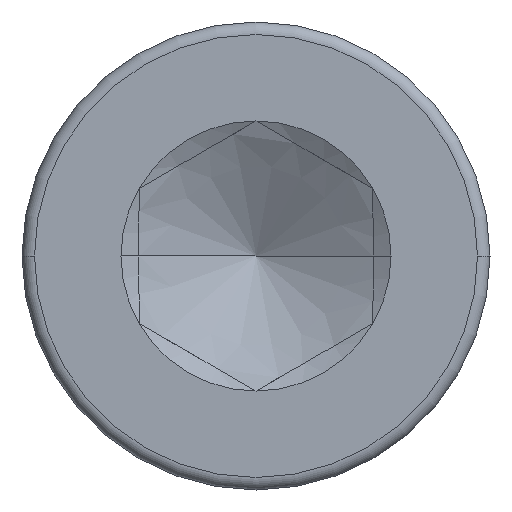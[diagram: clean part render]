
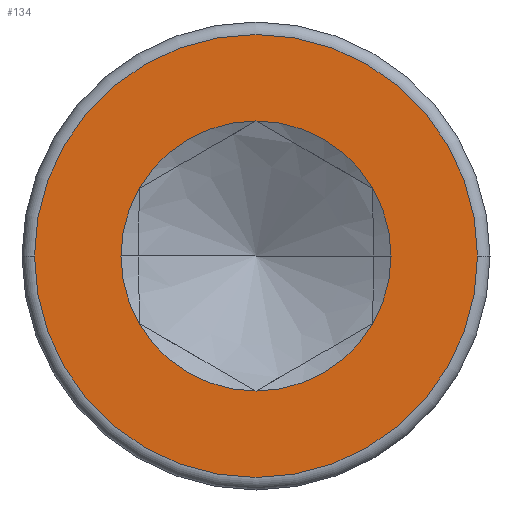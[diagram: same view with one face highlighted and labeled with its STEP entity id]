
A CAD part, left-side view. The second image highlights one B-rep face of the part: STEP entity #134.
In plain terms, the highlighted planar face has unit normal (-1, 0, 0).
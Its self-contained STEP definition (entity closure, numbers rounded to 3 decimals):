
#90=FACE_BOUND('',#206,.F.);
#101=PLANE('',#615);
#134=ADVANCED_FACE('',(#90,#169),#101,.T.);
#169=FACE_OUTER_BOUND('',#207,.F.);
#206=EDGE_LOOP('',(#330,#331,#332,#333,#334,#335,#336,#337));
#207=EDGE_LOOP('',(#338,#339));
#330=ORIENTED_EDGE('',*,*,#460,.T.);
#331=ORIENTED_EDGE('',*,*,#459,.T.);
#332=ORIENTED_EDGE('',*,*,#458,.T.);
#333=ORIENTED_EDGE('',*,*,#465,.T.);
#334=ORIENTED_EDGE('',*,*,#464,.T.);
#335=ORIENTED_EDGE('',*,*,#463,.T.);
#336=ORIENTED_EDGE('',*,*,#462,.T.);
#337=ORIENTED_EDGE('',*,*,#461,.T.);
#338=ORIENTED_EDGE('',*,*,#473,.F.);
#339=ORIENTED_EDGE('',*,*,#466,.F.);
#458=EDGE_CURVE('',#544,#531,#492,.T.);
#459=EDGE_CURVE('',#545,#544,#493,.T.);
#460=EDGE_CURVE('',#546,#545,#494,.T.);
#461=EDGE_CURVE('',#532,#546,#495,.T.);
#462=EDGE_CURVE('',#547,#532,#496,.T.);
#463=EDGE_CURVE('',#541,#547,#497,.T.);
#464=EDGE_CURVE('',#542,#541,#498,.T.);
#465=EDGE_CURVE('',#531,#542,#499,.T.);
#466=EDGE_CURVE('',#521,#520,#500,.T.);
#473=EDGE_CURVE('',#520,#521,#505,.T.);
#492=CIRCLE('',#575,0.866);
#493=CIRCLE('',#576,0.866);
#494=CIRCLE('',#577,0.866);
#495=CIRCLE('',#578,0.866);
#496=CIRCLE('',#579,0.866);
#497=CIRCLE('',#580,0.866);
#498=CIRCLE('',#581,0.866);
#499=CIRCLE('',#582,0.866);
#500=CIRCLE('',#583,1.42);
#505=CIRCLE('',#588,1.42);
#520=VERTEX_POINT('',#817);
#521=VERTEX_POINT('',#818);
#531=VERTEX_POINT('',#828);
#532=VERTEX_POINT('',#829);
#541=VERTEX_POINT('',#838);
#542=VERTEX_POINT('',#839);
#544=VERTEX_POINT('',#841);
#545=VERTEX_POINT('',#842);
#546=VERTEX_POINT('',#843);
#547=VERTEX_POINT('',#844);
#575=AXIS2_PLACEMENT_3D('',#964,#690,#691);
#576=AXIS2_PLACEMENT_3D('',#965,#692,#693);
#577=AXIS2_PLACEMENT_3D('',#966,#694,#695);
#578=AXIS2_PLACEMENT_3D('',#967,#696,#697);
#579=AXIS2_PLACEMENT_3D('',#968,#698,#699);
#580=AXIS2_PLACEMENT_3D('',#969,#700,#701);
#581=AXIS2_PLACEMENT_3D('',#970,#702,#703);
#582=AXIS2_PLACEMENT_3D('',#971,#704,#705);
#583=AXIS2_PLACEMENT_3D('',#972,#706,#707);
#588=AXIS2_PLACEMENT_3D('',#979,#718,#719);
#615=AXIS2_PLACEMENT_3D('',#1006,#772,#773);
#690=DIRECTION('',(-1.,0.,0.));
#691=DIRECTION('',(0.,0.866,0.5));
#692=DIRECTION('',(-1.,0.,0.));
#693=DIRECTION('',(0.,0.,1.));
#694=DIRECTION('',(-1.,0.,0.));
#695=DIRECTION('',(0.,-0.866,0.5));
#696=DIRECTION('',(-1.,0.,0.));
#697=DIRECTION('',(0.,-1.,0.));
#698=DIRECTION('',(-1.,0.,0.));
#699=DIRECTION('',(0.,-0.866,-0.5));
#700=DIRECTION('',(-1.,0.,0.));
#701=DIRECTION('',(0.,0.,-1.));
#702=DIRECTION('',(-1.,0.,0.));
#703=DIRECTION('',(0.,0.867,-0.499));
#704=DIRECTION('',(-1.,0.,0.));
#705=DIRECTION('',(0.,1.,0.));
#706=DIRECTION('',(-1.,0.,0.));
#707=DIRECTION('',(0.,1.,0.));
#718=DIRECTION('',(-1.,0.,0.));
#719=DIRECTION('',(0.,-1.,0.));
#772=DIRECTION('',(-1.,0.,0.));
#773=DIRECTION('',(0.,0.,1.));
#817=CARTESIAN_POINT('',(201.938,-27.79,-44.5));
#818=CARTESIAN_POINT('',(201.938,-24.95,-44.5));
#828=CARTESIAN_POINT('',(201.938,-25.505,-44.5));
#829=CARTESIAN_POINT('',(201.938,-27.236,-44.5));
#838=CARTESIAN_POINT('',(201.938,-26.37,-45.366));
#839=CARTESIAN_POINT('',(201.938,-25.62,-44.933));
#841=CARTESIAN_POINT('',(201.938,-25.621,-44.067));
#842=CARTESIAN_POINT('',(201.938,-26.37,-43.635));
#843=CARTESIAN_POINT('',(201.938,-27.12,-44.067));
#844=CARTESIAN_POINT('',(201.938,-27.12,-44.933));
#964=CARTESIAN_POINT('',(201.938,-26.37,-44.5));
#965=CARTESIAN_POINT('',(201.938,-26.37,-44.5));
#966=CARTESIAN_POINT('',(201.938,-26.37,-44.5));
#967=CARTESIAN_POINT('',(201.938,-26.37,-44.5));
#968=CARTESIAN_POINT('',(201.938,-26.37,-44.5));
#969=CARTESIAN_POINT('',(201.938,-26.37,-44.5));
#970=CARTESIAN_POINT('',(201.938,-26.37,-44.5));
#971=CARTESIAN_POINT('',(201.938,-26.37,-44.5));
#972=CARTESIAN_POINT('',(201.938,-26.37,-44.5));
#979=CARTESIAN_POINT('',(201.938,-26.37,-44.5));
#1006=CARTESIAN_POINT('',(201.938,-27.819,-45.948));
